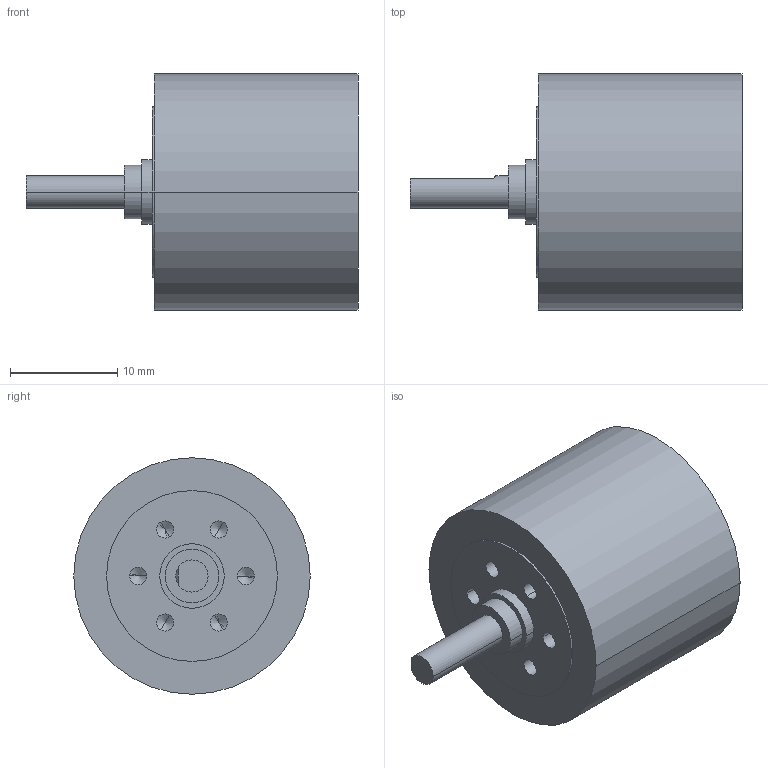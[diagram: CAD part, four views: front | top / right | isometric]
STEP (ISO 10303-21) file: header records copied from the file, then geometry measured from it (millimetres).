
FILE_DESCRIPTION((''),'2;1');
FILE_NAME('1118183','2010-02-04T',('MMAGMIBU'),(''),'PRO/ENGINEER BY PARAMETRIC TECHNOLOGY CORPORATION, 2009230','PRO/ENGINEER BY PARAMETRIC TECHNOLOGY CORPORATION, 2009230','');
FILE_SCHEMA(('CONFIG_CONTROL_DESIGN'));
Length unit declared in the file: millimetre
Products named in the file (1): 1118183
Bounding box: 30.9 x 22 x 22 mm (x, y, z)
Volume: 6566.3 mm3; surface area: 2458.2 mm2
Topology: 1 solids, 1 shells, 45 faces, 102 edges, 58 vertices
Faces by surface type: cylinder 24, cone 12, plane 9
Entity records: 1223 total; most frequent: DIRECTION 226, CARTESIAN_POINT 198, ORIENTED_EDGE 180, AXIS2_PLACEMENT_3D 93, EDGE_CURVE 90, VERTEX_POINT 58, EDGE_LOOP 56, CIRCLE 48
